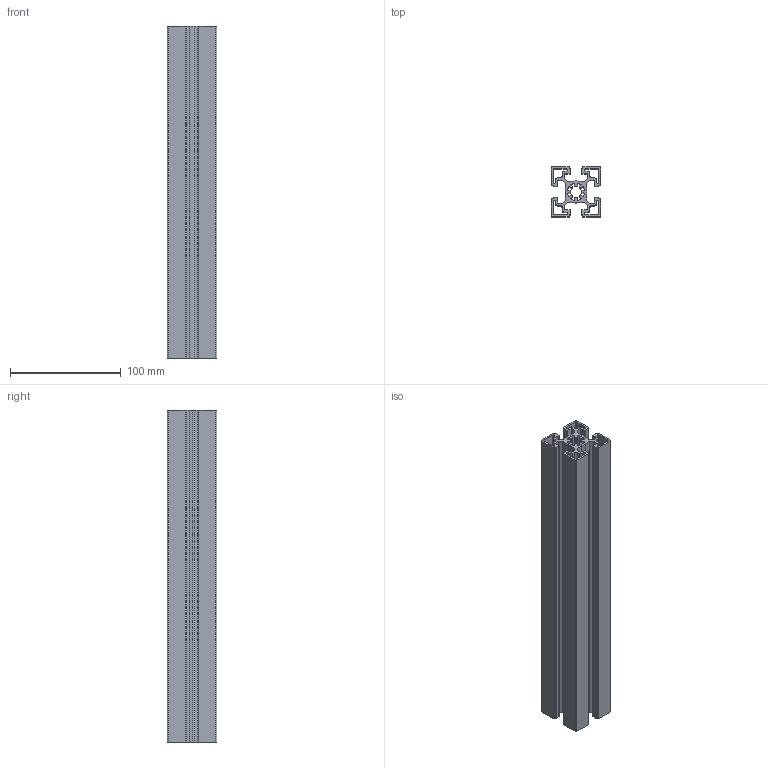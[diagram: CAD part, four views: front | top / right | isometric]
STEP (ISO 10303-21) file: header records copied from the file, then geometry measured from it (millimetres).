
FILE_DESCRIPTION (( 'STEP AP203' ), '1' );
FILE_NAME ('CE-4545F-10.STEP', '2015-12-19T00:28:08', ( '' ), ( '' ), 'SwSTEP 2.0', 'SolidWorks 2013', '' );
FILE_SCHEMA (( 'CONFIG_CONTROL_DESIGN' ));
Length unit declared in the file: millimetre
Products named in the file (1): CE-4545F-10
Bounding box: 45 x 45 x 300 mm (x, y, z)
Volume: 214888.9 mm3; surface area: 190956.1 mm2
Topology: 1 solids, 1 shells, 237 faces, 705 edges, 470 vertices
Faces by surface type: cylinder 131, plane 106
Entity records: 8138 total; most frequent: DIRECTION 1443, CARTESIAN_POINT 1413, ORIENTED_EDGE 1410, EDGE_CURVE 705, AXIS2_PLACEMENT_3D 500, VERTEX_POINT 470, LINE 443, VECTOR 443
